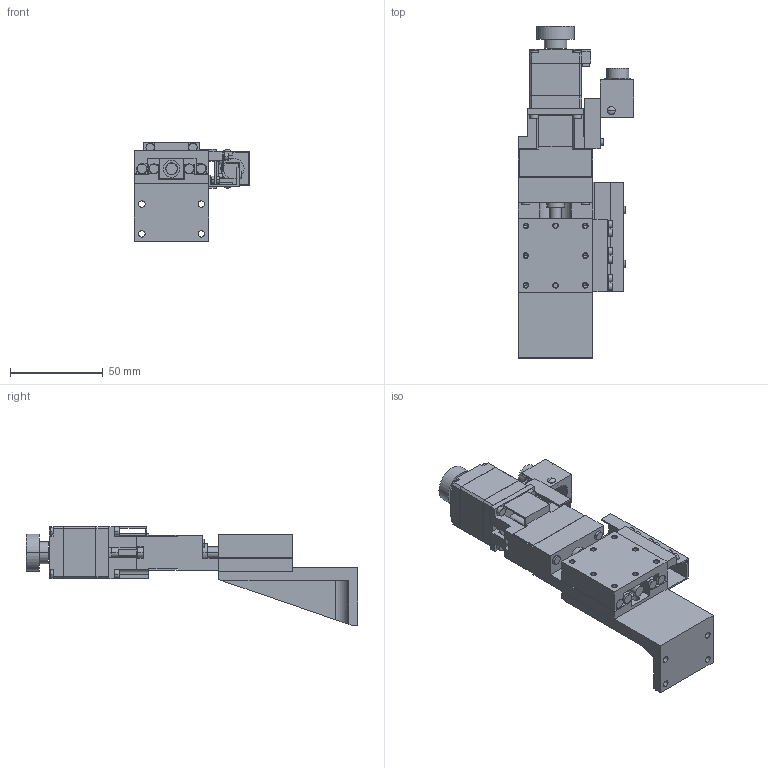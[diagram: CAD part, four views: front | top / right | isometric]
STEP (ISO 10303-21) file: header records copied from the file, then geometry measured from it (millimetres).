
FILE_DESCRIPTION(('STEP AP203'),'1');
FILE_NAME('C:/3D-Trans/3D_PZG413M-R□-C4+241108.step','2024-11-08T02:09:24',(' '),(' '),'Spatial InterOp 3D',' ',' ');
FILE_SCHEMA(('CONFIG_CONTROL_DESIGN'));
Length unit declared in the file: millimetre
Products named in the file (7): 1; 2; 3; 4; 5; 6; 7
Bounding box: 62 x 178.5 x 53 mm (x, y, z)
Volume: 116414.9 mm3; surface area: 57329.3 mm2
Topology: 7 solids, 8 shells, 759 faces, 1954 edges, 1249 vertices
Faces by surface type: plane 462, cylinder 245, cone 48, sphere 4
Entity records: 23423 total; most frequent: CARTESIAN_POINT 4133, DIRECTION 4047, ORIENTED_EDGE 3860, EDGE_CURVE 1930, AXIS2_PLACEMENT_3D 1359, LINE 1329, VECTOR 1329, VERTEX_POINT 1249
